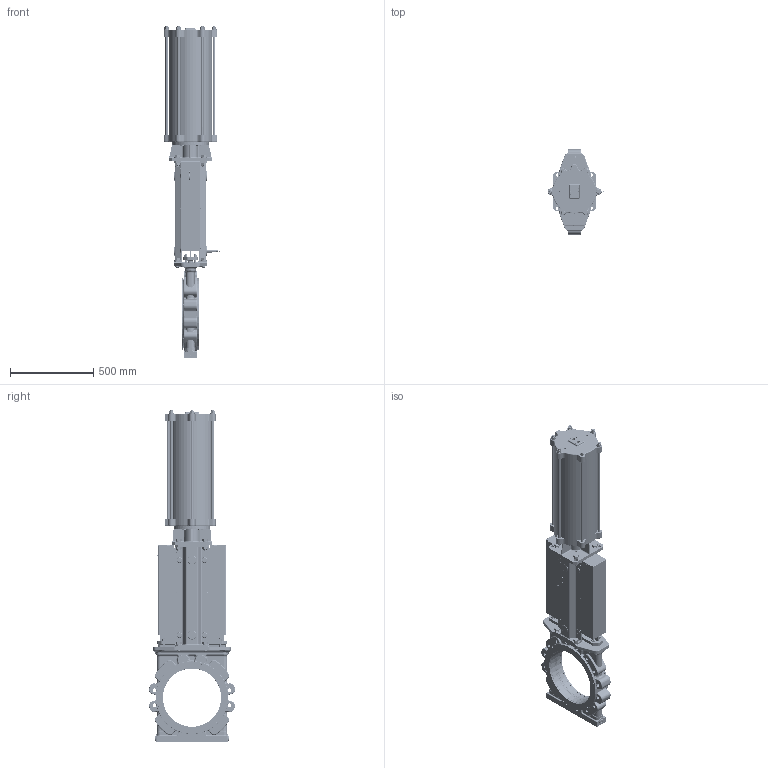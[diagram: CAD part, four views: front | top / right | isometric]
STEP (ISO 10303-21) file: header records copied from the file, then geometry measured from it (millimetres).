
FILE_DESCRIPTION(/* description */ (''),/* implementation_level */ '2;1');
FILE_NAME(/* name */ 'F:\3D-block färdiga för export\SLV-SLF\DN 350\SLV-DN350-PN10-FRSC250-450-LDR.stp',/* time_stamp */ '2021-06-16T15:05:53+02:00',/* author */ ('MATZET'),/* organization */ (''),/* preprocessor_version */ 'ST-DEVELOPER v18',/* originating_system */ 'Autodesk Inventor 2020',/* authorisation */ '');
FILE_SCHEMA (('AUTOMOTIVE_DESIGN { 1 0 10303 214 3 1 1 }'));
Products named in the file (1): SLV-DN350-PN10-FRSC250-450-LDR_Shrinkwrap_1
Bounding box: 341 x 515.8 x 1991.5 mm (x, y, z)
Volume: 28489225.1 mm3; surface area: 5684953.5 mm2
Topology: 1 solids, 1 shells, 3943 faces, 9662 edges, 5999 vertices
Faces by surface type: plane 1407, cylinder 1149, torus 440, bspline 426, cone 363, sphere 158
Full cylindrical faces by diameter (mm): 2.459 x8, 2.5 x1, 3 x12, 3.5 x8, 4 x24, 4.917 x7, 5 x8, 5.46 x1, 6 x13, 6.647 x4, 7 x12, 7.5 x16, 8 x13, 8.376 x4, 8.88 x1, 9.5 x2, 10 x12, 10.106 x6, 10.75 x4, 11 x12, 12 x10, 12.5 x6, 13 x8, 14 x7, 15 x9, 16 x12, 16.9 x2, 17 x9, 17.294 x24, 17.5 x6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
Entity records: 182521 total; most frequent: CARTESIAN_POINT 87228, DIRECTION 19951, ORIENTED_EDGE 19156, EDGE_CURVE 9578, AXIS2_PLACEMENT_3D 8262, VERTEX_POINT 5997, CIRCLE 4608, EDGE_LOOP 4485
